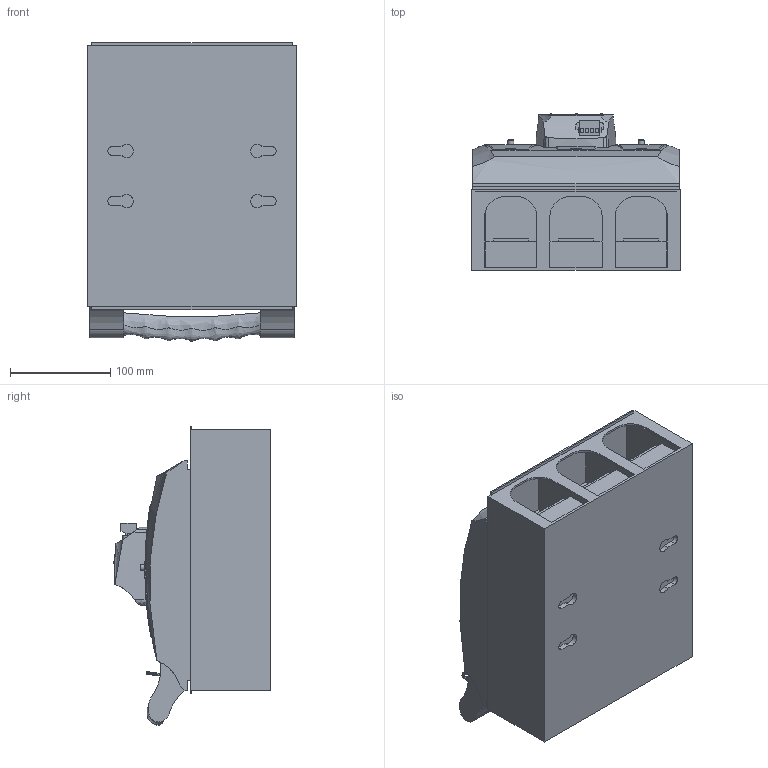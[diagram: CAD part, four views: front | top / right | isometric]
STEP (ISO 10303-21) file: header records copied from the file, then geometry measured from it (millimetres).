
FILE_DESCRIPTION(/* description */ (''),/* implementation_level */ '2;1');
FILE_NAME(/* name */ 'RBK 2 pro-X - 63-811786-021.stp',/* time_stamp */ '2019-03-07T15:17:40+01:00',/* author */ (''),/* organization */ (''),/* preprocessor_version */ 'ST-DEVELOPER v16',/* originating_system */ 'SIEMENS PLM Software NX 10.0',/* authorisation */ '');
FILE_SCHEMA (('AUTOMOTIVE_DESIGN { 1 0 10303 214 3 1 1 1 }'));
Products named in the file (1): 710_1570FDB6zv2i
Bounding box: 208 x 156.09 x 297.76 mm (x, y, z)
Volume: 5357672.4 mm3; surface area: 321317.2 mm2
Topology: 1 solids, 1 shells, 1421 faces, 3934 edges, 2568 vertices
Faces by surface type: plane 959, bspline 205, cylinder 132, extrusion 112, cone 7, torus 6
Full cylindrical faces by diameter (mm): 6 x2, 11 x6
Entity records: 66171 total; most frequent: CARTESIAN_POINT 21715, ORIENTED_EDGE 7732, DIRECTION 7069, EDGE_CURVE 3866, AXIS2_PLACEMENT_3D 2665, VERTEX_POINT 2545, VECTOR 1739, LINE 1627
